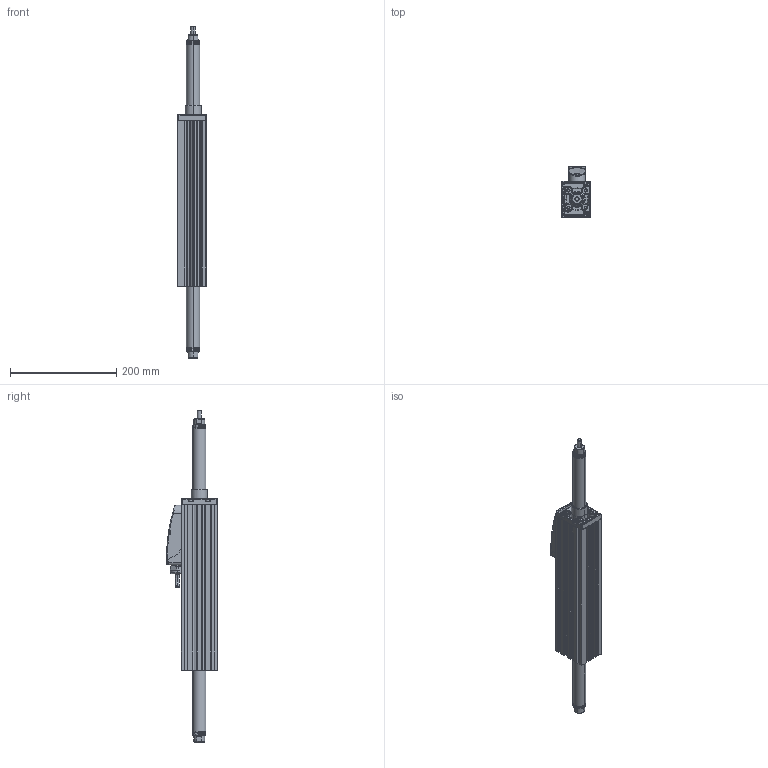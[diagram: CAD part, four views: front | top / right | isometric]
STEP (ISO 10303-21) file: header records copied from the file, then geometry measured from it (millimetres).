
FILE_DESCRIPTION (( 'STEP AP203' ), '1' );
FILE_NAME ('STA2510-232.STEP', '2011-10-13T14:20:58', ( 'showsden' ), ( '' ), 'SwSTEP 2.0', 'SolidWorks 2011', '' );
FILE_SCHEMA (( 'CONFIG_CONTROL_DESIGN' ));
Products named in the file (14): STA2510-232; TRA25 Thrust Rod - Solid_TRA2510 (232); Screw, Cap Head, M4_Screw, Cap Head, M4 x 16; STA25 Bearing End Support - Solid_MP02261; STA25 MOTOR HOUSING (REV-B)_STA2510; ST25 CABLE ASSEMBLY (REV2)_MA02197 (FLEXING); ST25 POD ASSEMBLY (DLS)_ST25 POD ASSEMBLY (SOLID); MP02254-D ST25 Pod Base Gasket_MP02254; POWER CABLE_FLEXING (POWER); SIGNAL CABLE_FLEXING (SIGNAL); PG16 Gland Nut (REV2)_PG16 (REV 2); Screw, Button Head, M3_Screw, Button Head, M3 x 10; Screw, Cap Head, M2.5_Screw, Cap Head, M2.5 x 6; ST25 POD (DLS)_ST25 POD (SOLID)
Assembly tree (20 placements, depth 4):
  STA2510-232
    TRA25 Thrust Rod - Solid_TRA2510 (232)
    Screw, Cap Head, M4_Screw, Cap Head, M4 x 16  x4
    STA25 Bearing End Support - Solid_MP02261
    ST25 POD ASSEMBLY (DLS)_ST25 POD ASSEMBLY (SOLID)
      Screw, Cap Head, M2.5_Screw, Cap Head, M2.5 x 6  x2
      Screw, Button Head, M3_Screw, Button Head, M3 x 10  x4
      MP02254-D ST25 Pod Base Gasket_MP02254
      ST25 CABLE ASSEMBLY (REV2)_MA02197 (FLEXING)
        POWER CABLE_FLEXING (POWER)
        SIGNAL CABLE_FLEXING (SIGNAL)
        PG16 Gland Nut (REV2)_PG16 (REV 2)
      ST25 POD (DLS)_ST25 POD (SOLID)
    STA25 MOTOR HOUSING (REV-B)_STA2510
Bounding box: 54 x 95.5 x 625 mm (x, y, z)
Volume: 1194082.4 mm3; surface area: 282937.8 mm2
Topology: 18 solids, 18 shells, 1636 faces, 4226 edges, 2687 vertices
Faces by surface type: plane 567, cylinder 516, bspline 365, cone 116, torus 56, sphere 16
Entity records: 75343 total; most frequent: CARTESIAN_POINT 39247, ORIENTED_EDGE 7888, DIRECTION 6221, EDGE_CURVE 3944, VERTEX_POINT 2531, AXIS2_PLACEMENT_3D 2326, EDGE_LOOP 1659, LINE 1569
